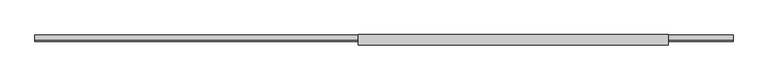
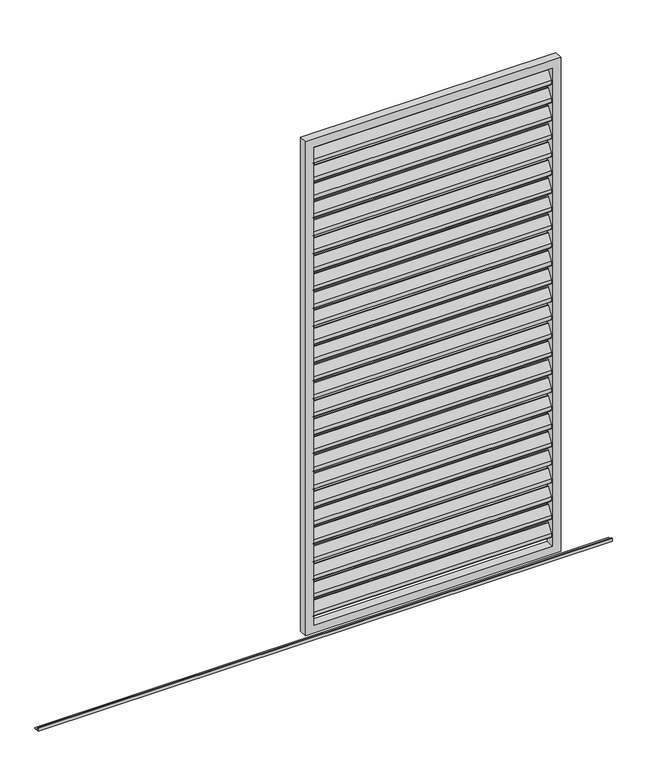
"""IFC4 building model written with IfcOpenShell, lengths in millimetres: proxy geometry, Renson_Amani_Loggia_Paro_Aluminium_Sliding : Renson_Amani_Loggia_Paro_Aluminium_Sliding."""

from ifc_helpers import new_model, si_unit, point, frame, frame_2d, origin, place, context, project, spatial, polyline, circle_curve, trimmed, segment, composite_curve, outline, extrude, source, transform, mapped, element, save


def generic_models_13bb7243(model_context):
    return source(origin(), model_context, "Body", "SweptSolid", [
        extrude(outline(composite_curve([segment(trimmed(circle_curve(frame_2d((12.6675921, 2432.6587719)), 3.0), [point((10.1515804, 2434.292689))], [point((15.6675921, 2432.6587719))], False, "CARTESIAN"), True, "CONTINUOUS"), segment(polyline([(15.6675921, 2432.6587719), (15.6675921, 2414.2979873)]), True, "CONTINUOUS"), segment(trimmed(circle_curve(frame_2d((12.6675921, 2414.2979873)), 3.0), [point((15.6675921, 2414.2979873))], [point((15.1836038, 2412.6640702))], False, "CARTESIAN"), True, "CONTINUOUS"), segment(polyline([(15.1836038, 2412.6640702), (-8.8163962, 2375.707311)]), True, "CONTINUOUS"), segment(trimmed(circle_curve(frame_2d((-11.3324079, 2377.3412281)), 3.0), [point((-8.8163962, 2375.707311))], [point((-14.3324079, 2377.3412281))], False, "CARTESIAN"), True, "CONTINUOUS"), segment(polyline([(-14.3324079, 2377.3412281), (-14.3324079, 2396.5906532), (10.1515804, 2434.292689)]), True, "CONTINUOUS")], self_intersect=False)), frame((-560.0, 0.0, 0.0), z_axis=(1.0, 0.0, 0.0), x_axis=(0.0, 1.0, 0.0)), (0.0, 0.0, 1.0), 1120.0),
        extrude(outline(composite_curve([segment(trimmed(circle_curve(frame_2d((12.6675921, 2342.6587719)), 3.0), [point((10.1515804, 2344.292689))], [point((15.6675921, 2342.6587719))], False, "CARTESIAN"), True, "CONTINUOUS"), segment(polyline([(15.6675921, 2342.6587719), (15.6675921, 2324.2979873)]), True, "CONTINUOUS"), segment(trimmed(circle_curve(frame_2d((12.6675921, 2324.2979873)), 3.0), [point((15.6675921, 2324.2979873))], [point((15.1836038, 2322.6640702))], False, "CARTESIAN"), True, "CONTINUOUS"), segment(polyline([(15.1836038, 2322.6640702), (-8.8163962, 2285.707311)]), True, "CONTINUOUS"), segment(trimmed(circle_curve(frame_2d((-11.3324079, 2287.3412281)), 3.0), [point((-8.8163962, 2285.707311))], [point((-14.3324079, 2287.3412281))], False, "CARTESIAN"), True, "CONTINUOUS"), segment(polyline([(-14.3324079, 2287.3412281), (-14.3324079, 2306.5906532), (10.1515804, 2344.292689)]), True, "CONTINUOUS")], self_intersect=False)), frame((-560.0, 0.0, 0.0), z_axis=(1.0, 0.0, 0.0), x_axis=(0.0, 1.0, 0.0)), (0.0, 0.0, 1.0), 1120.0),
        extrude(outline(composite_curve([segment(trimmed(circle_curve(frame_2d((12.6675921, 2252.6587719)), 3.0), [point((10.1515804, 2254.292689))], [point((15.6675921, 2252.6587719))], False, "CARTESIAN"), True, "CONTINUOUS"), segment(polyline([(15.6675921, 2252.6587719), (15.6675921, 2234.2979873)]), True, "CONTINUOUS"), segment(trimmed(circle_curve(frame_2d((12.6675921, 2234.2979873)), 3.0), [point((15.6675921, 2234.2979873))], [point((15.1836038, 2232.6640702))], False, "CARTESIAN"), True, "CONTINUOUS"), segment(polyline([(15.1836038, 2232.6640702), (-8.8163962, 2195.707311)]), True, "CONTINUOUS"), segment(trimmed(circle_curve(frame_2d((-11.3324079, 2197.3412281)), 3.0), [point((-8.8163962, 2195.707311))], [point((-14.3324079, 2197.3412281))], False, "CARTESIAN"), True, "CONTINUOUS"), segment(polyline([(-14.3324079, 2197.3412281), (-14.3324079, 2216.5906532), (10.1515804, 2254.292689)]), True, "CONTINUOUS")], self_intersect=False)), frame((-560.0, 0.0, 0.0), z_axis=(1.0, 0.0, 0.0), x_axis=(0.0, 1.0, 0.0)), (0.0, 0.0, 1.0), 1120.0),
        extrude(outline(composite_curve([segment(trimmed(circle_curve(frame_2d((12.6675921, 2162.6587719)), 3.0), [point((10.1515804, 2164.292689))], [point((15.6675921, 2162.6587719))], False, "CARTESIAN"), True, "CONTINUOUS"), segment(polyline([(15.6675921, 2162.6587719), (15.6675921, 2144.2979873)]), True, "CONTINUOUS"), segment(trimmed(circle_curve(frame_2d((12.6675921, 2144.2979873)), 3.0), [point((15.6675921, 2144.2979873))], [point((15.1836038, 2142.6640702))], False, "CARTESIAN"), True, "CONTINUOUS"), segment(polyline([(15.1836038, 2142.6640702), (-8.8163962, 2105.707311)]), True, "CONTINUOUS"), segment(trimmed(circle_curve(frame_2d((-11.3324079, 2107.3412281)), 3.0), [point((-8.8163962, 2105.707311))], [point((-14.3324079, 2107.3412281))], False, "CARTESIAN"), True, "CONTINUOUS"), segment(polyline([(-14.3324079, 2107.3412281), (-14.3324079, 2126.5906532), (10.1515804, 2164.292689)]), True, "CONTINUOUS")], self_intersect=False)), frame((-560.0, 0.0, 0.0), z_axis=(1.0, 0.0, 0.0), x_axis=(0.0, 1.0, 0.0)), (0.0, 0.0, 1.0), 1120.0),
        extrude(outline(composite_curve([segment(trimmed(circle_curve(frame_2d((12.6675921, 2072.6587719)), 3.0), [point((10.1515804, 2074.292689))], [point((15.6675921, 2072.6587719))], False, "CARTESIAN"), True, "CONTINUOUS"), segment(polyline([(15.6675921, 2072.6587719), (15.6675921, 2054.2979873)]), True, "CONTINUOUS"), segment(trimmed(circle_curve(frame_2d((12.6675921, 2054.2979873)), 3.0), [point((15.6675921, 2054.2979873))], [point((15.1836038, 2052.6640702))], False, "CARTESIAN"), True, "CONTINUOUS"), segment(polyline([(15.1836038, 2052.6640702), (-8.8163962, 2015.707311)]), True, "CONTINUOUS"), segment(trimmed(circle_curve(frame_2d((-11.3324079, 2017.3412281)), 3.0), [point((-8.8163962, 2015.707311))], [point((-14.3324079, 2017.3412281))], False, "CARTESIAN"), True, "CONTINUOUS"), segment(polyline([(-14.3324079, 2017.3412281), (-14.3324079, 2036.5906532), (10.1515804, 2074.292689)]), True, "CONTINUOUS")], self_intersect=False)), frame((-560.0, 0.0, 0.0), z_axis=(1.0, 0.0, 0.0), x_axis=(0.0, 1.0, 0.0)), (0.0, 0.0, 1.0), 1120.0),
        extrude(outline(composite_curve([segment(trimmed(circle_curve(frame_2d((12.6675921, 1982.6587719)), 3.0), [point((10.1515804, 1984.292689))], [point((15.6675921, 1982.6587719))], False, "CARTESIAN"), True, "CONTINUOUS"), segment(polyline([(15.6675921, 1982.6587719), (15.6675921, 1964.2979873)]), True, "CONTINUOUS"), segment(trimmed(circle_curve(frame_2d((12.6675921, 1964.2979873)), 3.0), [point((15.6675921, 1964.2979873))], [point((15.1836038, 1962.6640702))], False, "CARTESIAN"), True, "CONTINUOUS"), segment(polyline([(15.1836038, 1962.6640702), (-8.8163962, 1925.707311)]), True, "CONTINUOUS"), segment(trimmed(circle_curve(frame_2d((-11.3324079, 1927.3412281)), 3.0), [point((-8.8163962, 1925.707311))], [point((-14.3324079, 1927.3412281))], False, "CARTESIAN"), True, "CONTINUOUS"), segment(polyline([(-14.3324079, 1927.3412281), (-14.3324079, 1946.5906532), (10.1515804, 1984.292689)]), True, "CONTINUOUS")], self_intersect=False)), frame((-560.0, 0.0, 0.0), z_axis=(1.0, 0.0, 0.0), x_axis=(0.0, 1.0, 0.0)), (0.0, 0.0, 1.0), 1120.0),
        extrude(outline(composite_curve([segment(trimmed(circle_curve(frame_2d((12.6675921, 1892.6587719)), 3.0), [point((10.1515804, 1894.292689))], [point((15.6675921, 1892.6587719))], False, "CARTESIAN"), True, "CONTINUOUS"), segment(polyline([(15.6675921, 1892.6587719), (15.6675921, 1874.2979873)]), True, "CONTINUOUS"), segment(trimmed(circle_curve(frame_2d((12.6675921, 1874.2979873)), 3.0), [point((15.6675921, 1874.2979873))], [point((15.1836038, 1872.6640702))], False, "CARTESIAN"), True, "CONTINUOUS"), segment(polyline([(15.1836038, 1872.6640702), (-8.8163962, 1835.707311)]), True, "CONTINUOUS"), segment(trimmed(circle_curve(frame_2d((-11.3324079, 1837.3412281)), 3.0), [point((-8.8163962, 1835.707311))], [point((-14.3324079, 1837.3412281))], False, "CARTESIAN"), True, "CONTINUOUS"), segment(polyline([(-14.3324079, 1837.3412281), (-14.3324079, 1856.5906532), (10.1515804, 1894.292689)]), True, "CONTINUOUS")], self_intersect=False)), frame((-560.0, 0.0, 0.0), z_axis=(1.0, 0.0, 0.0), x_axis=(0.0, 1.0, 0.0)), (0.0, 0.0, 1.0), 1120.0),
        extrude(outline(composite_curve([segment(trimmed(circle_curve(frame_2d((12.6675921, 1802.6587719)), 3.0), [point((10.1515804, 1804.292689))], [point((15.6675921, 1802.6587719))], False, "CARTESIAN"), True, "CONTINUOUS"), segment(polyline([(15.6675921, 1802.6587719), (15.6675921, 1784.2979873)]), True, "CONTINUOUS"), segment(trimmed(circle_curve(frame_2d((12.6675921, 1784.2979873)), 3.0), [point((15.6675921, 1784.2979873))], [point((15.1836038, 1782.6640702))], False, "CARTESIAN"), True, "CONTINUOUS"), segment(polyline([(15.1836038, 1782.6640702), (-8.8163962, 1745.707311)]), True, "CONTINUOUS"), segment(trimmed(circle_curve(frame_2d((-11.3324079, 1747.3412281)), 3.0), [point((-8.8163962, 1745.707311))], [point((-14.3324079, 1747.3412281))], False, "CARTESIAN"), True, "CONTINUOUS"), segment(polyline([(-14.3324079, 1747.3412281), (-14.3324079, 1766.5906532), (10.1515804, 1804.292689)]), True, "CONTINUOUS")], self_intersect=False)), frame((-560.0, 0.0, 0.0), z_axis=(1.0, 0.0, 0.0), x_axis=(0.0, 1.0, 0.0)), (0.0, 0.0, 1.0), 1120.0),
        extrude(outline(composite_curve([segment(trimmed(circle_curve(frame_2d((12.6675921, 1712.6587719)), 3.0), [point((10.1515804, 1714.292689))], [point((15.6675921, 1712.6587719))], False, "CARTESIAN"), True, "CONTINUOUS"), segment(polyline([(15.6675921, 1712.6587719), (15.6675921, 1694.2979873)]), True, "CONTINUOUS"), segment(trimmed(circle_curve(frame_2d((12.6675921, 1694.2979873)), 3.0), [point((15.6675921, 1694.2979873))], [point((15.1836038, 1692.6640702))], False, "CARTESIAN"), True, "CONTINUOUS"), segment(polyline([(15.1836038, 1692.6640702), (-8.8163962, 1655.707311)]), True, "CONTINUOUS"), segment(trimmed(circle_curve(frame_2d((-11.3324079, 1657.3412281)), 3.0), [point((-8.8163962, 1655.707311))], [point((-14.3324079, 1657.3412281))], False, "CARTESIAN"), True, "CONTINUOUS"), segment(polyline([(-14.3324079, 1657.3412281), (-14.3324079, 1676.5906532), (10.1515804, 1714.292689)]), True, "CONTINUOUS")], self_intersect=False)), frame((-560.0, 0.0, 0.0), z_axis=(1.0, 0.0, 0.0), x_axis=(0.0, 1.0, 0.0)), (0.0, 0.0, 1.0), 1120.0),
        extrude(outline(composite_curve([segment(trimmed(circle_curve(frame_2d((12.6675921, 1622.6587719)), 3.0), [point((10.1515804, 1624.292689))], [point((15.6675921, 1622.6587719))], False, "CARTESIAN"), True, "CONTINUOUS"), segment(polyline([(15.6675921, 1622.6587719), (15.6675921, 1604.2979873)]), True, "CONTINUOUS"), segment(trimmed(circle_curve(frame_2d((12.6675921, 1604.2979873)), 3.0), [point((15.6675921, 1604.2979873))], [point((15.1836038, 1602.6640702))], False, "CARTESIAN"), True, "CONTINUOUS"), segment(polyline([(15.1836038, 1602.6640702), (-8.8163962, 1565.707311)]), True, "CONTINUOUS"), segment(trimmed(circle_curve(frame_2d((-11.3324079, 1567.3412281)), 3.0), [point((-8.8163962, 1565.707311))], [point((-14.3324079, 1567.3412281))], False, "CARTESIAN"), True, "CONTINUOUS"), segment(polyline([(-14.3324079, 1567.3412281), (-14.3324079, 1586.5906532), (10.1515804, 1624.292689)]), True, "CONTINUOUS")], self_intersect=False)), frame((-560.0, 0.0, 0.0), z_axis=(1.0, 0.0, 0.0), x_axis=(0.0, 1.0, 0.0)), (0.0, 0.0, 1.0), 1120.0),
        extrude(outline(composite_curve([segment(trimmed(circle_curve(frame_2d((12.6675921, 1532.6587719)), 3.0), [point((10.1515804, 1534.292689))], [point((15.6675921, 1532.6587719))], False, "CARTESIAN"), True, "CONTINUOUS"), segment(polyline([(15.6675921, 1532.6587719), (15.6675921, 1514.2979873)]), True, "CONTINUOUS"), segment(trimmed(circle_curve(frame_2d((12.6675921, 1514.2979873)), 3.0), [point((15.6675921, 1514.2979873))], [point((15.1836038, 1512.6640702))], False, "CARTESIAN"), True, "CONTINUOUS"), segment(polyline([(15.1836038, 1512.6640702), (-8.8163962, 1475.707311)]), True, "CONTINUOUS"), segment(trimmed(circle_curve(frame_2d((-11.3324079, 1477.3412281)), 3.0), [point((-8.8163962, 1475.707311))], [point((-14.3324079, 1477.3412281))], False, "CARTESIAN"), True, "CONTINUOUS"), segment(polyline([(-14.3324079, 1477.3412281), (-14.3324079, 1496.5906532), (10.1515804, 1534.292689)]), True, "CONTINUOUS")], self_intersect=False)), frame((-560.0, 0.0, 0.0), z_axis=(1.0, 0.0, 0.0), x_axis=(0.0, 1.0, 0.0)), (0.0, 0.0, 1.0), 1120.0),
        extrude(outline(composite_curve([segment(trimmed(circle_curve(frame_2d((12.6675921, 1442.6587719)), 3.0), [point((10.1515804, 1444.292689))], [point((15.6675921, 1442.6587719))], False, "CARTESIAN"), True, "CONTINUOUS"), segment(polyline([(15.6675921, 1442.6587719), (15.6675921, 1424.2979873)]), True, "CONTINUOUS"), segment(trimmed(circle_curve(frame_2d((12.6675921, 1424.2979873)), 3.0), [point((15.6675921, 1424.2979873))], [point((15.1836038, 1422.6640702))], False, "CARTESIAN"), True, "CONTINUOUS"), segment(polyline([(15.1836038, 1422.6640702), (-8.8163962, 1385.707311)]), True, "CONTINUOUS"), segment(trimmed(circle_curve(frame_2d((-11.3324079, 1387.3412281)), 3.0), [point((-8.8163962, 1385.707311))], [point((-14.3324079, 1387.3412281))], False, "CARTESIAN"), True, "CONTINUOUS"), segment(polyline([(-14.3324079, 1387.3412281), (-14.3324079, 1406.5906532), (10.1515804, 1444.292689)]), True, "CONTINUOUS")], self_intersect=False)), frame((-560.0, 0.0, 0.0), z_axis=(1.0, 0.0, 0.0), x_axis=(0.0, 1.0, 0.0)), (0.0, 0.0, 1.0), 1120.0),
        extrude(outline(composite_curve([segment(trimmed(circle_curve(frame_2d((12.6675921, 1352.6587719)), 3.0), [point((10.1515804, 1354.292689))], [point((15.6675921, 1352.6587719))], False, "CARTESIAN"), True, "CONTINUOUS"), segment(polyline([(15.6675921, 1352.6587719), (15.6675921, 1334.2979873)]), True, "CONTINUOUS"), segment(trimmed(circle_curve(frame_2d((12.6675921, 1334.2979873)), 3.0), [point((15.6675921, 1334.2979873))], [point((15.1836038, 1332.6640702))], False, "CARTESIAN"), True, "CONTINUOUS"), segment(polyline([(15.1836038, 1332.6640702), (-8.8163962, 1295.707311)]), True, "CONTINUOUS"), segment(trimmed(circle_curve(frame_2d((-11.3324079, 1297.3412281)), 3.0), [point((-8.8163962, 1295.707311))], [point((-14.3324079, 1297.3412281))], False, "CARTESIAN"), True, "CONTINUOUS"), segment(polyline([(-14.3324079, 1297.3412281), (-14.3324079, 1316.5906532), (10.1515804, 1354.292689)]), True, "CONTINUOUS")], self_intersect=False)), frame((-560.0, 0.0, 0.0), z_axis=(1.0, 0.0, 0.0), x_axis=(0.0, 1.0, 0.0)), (0.0, 0.0, 1.0), 1120.0),
        extrude(outline(composite_curve([segment(trimmed(circle_curve(frame_2d((12.6675921, 1262.6587719)), 3.0), [point((10.1515804, 1264.292689))], [point((15.6675921, 1262.6587719))], False, "CARTESIAN"), True, "CONTINUOUS"), segment(polyline([(15.6675921, 1262.6587719), (15.6675921, 1244.2979873)]), True, "CONTINUOUS"), segment(trimmed(circle_curve(frame_2d((12.6675921, 1244.2979873)), 3.0), [point((15.6675921, 1244.2979873))], [point((15.1836038, 1242.6640702))], False, "CARTESIAN"), True, "CONTINUOUS"), segment(polyline([(15.1836038, 1242.6640702), (-8.8163962, 1205.707311)]), True, "CONTINUOUS"), segment(trimmed(circle_curve(frame_2d((-11.3324079, 1207.3412281)), 3.0), [point((-8.8163962, 1205.707311))], [point((-14.3324079, 1207.3412281))], False, "CARTESIAN"), True, "CONTINUOUS"), segment(polyline([(-14.3324079, 1207.3412281), (-14.3324079, 1226.5906532), (10.1515804, 1264.292689)]), True, "CONTINUOUS")], self_intersect=False)), frame((-560.0, 0.0, 0.0), z_axis=(1.0, 0.0, 0.0), x_axis=(0.0, 1.0, 0.0)), (0.0, 0.0, 1.0), 1120.0),
        extrude(outline(composite_curve([segment(trimmed(circle_curve(frame_2d((12.6675921, 1172.6587719)), 3.0), [point((10.1515804, 1174.292689))], [point((15.6675921, 1172.6587719))], False, "CARTESIAN"), True, "CONTINUOUS"), segment(polyline([(15.6675921, 1172.6587719), (15.6675921, 1154.2979873)]), True, "CONTINUOUS"), segment(trimmed(circle_curve(frame_2d((12.6675921, 1154.2979873)), 3.0), [point((15.6675921, 1154.2979873))], [point((15.1836038, 1152.6640702))], False, "CARTESIAN"), True, "CONTINUOUS"), segment(polyline([(15.1836038, 1152.6640702), (-8.8163962, 1115.707311)]), True, "CONTINUOUS"), segment(trimmed(circle_curve(frame_2d((-11.3324079, 1117.3412281)), 3.0), [point((-8.8163962, 1115.707311))], [point((-14.3324079, 1117.3412281))], False, "CARTESIAN"), True, "CONTINUOUS"), segment(polyline([(-14.3324079, 1117.3412281), (-14.3324079, 1136.5906532), (10.1515804, 1174.292689)]), True, "CONTINUOUS")], self_intersect=False)), frame((-560.0, 0.0, 0.0), z_axis=(1.0, 0.0, 0.0), x_axis=(0.0, 1.0, 0.0)), (0.0, 0.0, 1.0), 1120.0),
        extrude(outline(composite_curve([segment(trimmed(circle_curve(frame_2d((12.6675921, 1082.6587719)), 3.0), [point((10.1515804, 1084.292689))], [point((15.6675921, 1082.6587719))], False, "CARTESIAN"), True, "CONTINUOUS"), segment(polyline([(15.6675921, 1082.6587719), (15.6675921, 1064.2979873)]), True, "CONTINUOUS"), segment(trimmed(circle_curve(frame_2d((12.6675921, 1064.2979873)), 3.0), [point((15.6675921, 1064.2979873))], [point((15.1836038, 1062.6640702))], False, "CARTESIAN"), True, "CONTINUOUS"), segment(polyline([(15.1836038, 1062.6640702), (-8.8163962, 1025.707311)]), True, "CONTINUOUS"), segment(trimmed(circle_curve(frame_2d((-11.3324079, 1027.3412281)), 3.0), [point((-8.8163962, 1025.707311))], [point((-14.3324079, 1027.3412281))], False, "CARTESIAN"), True, "CONTINUOUS"), segment(polyline([(-14.3324079, 1027.3412281), (-14.3324079, 1046.5906532), (10.1515804, 1084.292689)]), True, "CONTINUOUS")], self_intersect=False)), frame((-560.0, 0.0, 0.0), z_axis=(1.0, 0.0, 0.0), x_axis=(0.0, 1.0, 0.0)), (0.0, 0.0, 1.0), 1120.0),
        extrude(outline(composite_curve([segment(trimmed(circle_curve(frame_2d((12.6675921, 992.6587719)), 3.0), [point((10.1515804, 994.292689))], [point((15.6675921, 992.6587719))], False, "CARTESIAN"), True, "CONTINUOUS"), segment(polyline([(15.6675921, 992.6587719), (15.6675921, 974.2979873)]), True, "CONTINUOUS"), segment(trimmed(circle_curve(frame_2d((12.6675921, 974.2979873)), 3.0), [point((15.6675921, 974.2979873))], [point((15.1836038, 972.6640702))], False, "CARTESIAN"), True, "CONTINUOUS"), segment(polyline([(15.1836038, 972.6640702), (-8.8163962, 935.707311)]), True, "CONTINUOUS"), segment(trimmed(circle_curve(frame_2d((-11.3324079, 937.3412281)), 3.0), [point((-8.8163962, 935.707311))], [point((-14.3324079, 937.3412281))], False, "CARTESIAN"), True, "CONTINUOUS"), segment(polyline([(-14.3324079, 937.3412281), (-14.3324079, 956.5906532), (10.1515804, 994.292689)]), True, "CONTINUOUS")], self_intersect=False)), frame((-560.0, 0.0, 0.0), z_axis=(1.0, 0.0, 0.0), x_axis=(0.0, 1.0, 0.0)), (0.0, 0.0, 1.0), 1120.0),
        extrude(outline(composite_curve([segment(trimmed(circle_curve(frame_2d((12.6675921, 902.6587719)), 3.0), [point((10.1515804, 904.292689))], [point((15.6675921, 902.6587719))], False, "CARTESIAN"), True, "CONTINUOUS"), segment(polyline([(15.6675921, 902.6587719), (15.6675921, 884.2979873)]), True, "CONTINUOUS"), segment(trimmed(circle_curve(frame_2d((12.6675921, 884.2979873)), 3.0), [point((15.6675921, 884.2979873))], [point((15.1836038, 882.6640702))], False, "CARTESIAN"), True, "CONTINUOUS"), segment(polyline([(15.1836038, 882.6640702), (-8.8163962, 845.707311)]), True, "CONTINUOUS"), segment(trimmed(circle_curve(frame_2d((-11.3324079, 847.3412281)), 3.0), [point((-8.8163962, 845.707311))], [point((-14.3324079, 847.3412281))], False, "CARTESIAN"), True, "CONTINUOUS"), segment(polyline([(-14.3324079, 847.3412281), (-14.3324079, 866.5906532), (10.1515804, 904.292689)]), True, "CONTINUOUS")], self_intersect=False)), frame((-560.0, 0.0, 0.0), z_axis=(1.0, 0.0, 0.0), x_axis=(0.0, 1.0, 0.0)), (0.0, 0.0, 1.0), 1120.0),
        extrude(outline(composite_curve([segment(trimmed(circle_curve(frame_2d((12.6675921, 812.6587719)), 3.0), [point((10.1515804, 814.292689))], [point((15.6675921, 812.6587719))], False, "CARTESIAN"), True, "CONTINUOUS"), segment(polyline([(15.6675921, 812.6587719), (15.6675921, 794.2979873)]), True, "CONTINUOUS"), segment(trimmed(circle_curve(frame_2d((12.6675921, 794.2979873)), 3.0), [point((15.6675921, 794.2979873))], [point((15.1836038, 792.6640702))], False, "CARTESIAN"), True, "CONTINUOUS"), segment(polyline([(15.1836038, 792.6640702), (-8.8163962, 755.707311)]), True, "CONTINUOUS"), segment(trimmed(circle_curve(frame_2d((-11.3324079, 757.3412281)), 3.0), [point((-8.8163962, 755.707311))], [point((-14.3324079, 757.3412281))], False, "CARTESIAN"), True, "CONTINUOUS"), segment(polyline([(-14.3324079, 757.3412281), (-14.3324079, 776.5906532), (10.1515804, 814.292689)]), True, "CONTINUOUS")], self_intersect=False)), frame((-560.0, 0.0, 0.0), z_axis=(1.0, 0.0, 0.0), x_axis=(0.0, 1.0, 0.0)), (0.0, 0.0, 1.0), 1120.0),
        extrude(outline(composite_curve([segment(trimmed(circle_curve(frame_2d((12.6675921, 722.6587719)), 3.0), [point((10.1515804, 724.292689))], [point((15.6675921, 722.6587719))], False, "CARTESIAN"), True, "CONTINUOUS"), segment(polyline([(15.6675921, 722.6587719), (15.6675921, 704.2979873)]), True, "CONTINUOUS"), segment(trimmed(circle_curve(frame_2d((12.6675921, 704.2979873)), 3.0), [point((15.6675921, 704.2979873))], [point((15.1836038, 702.6640702))], False, "CARTESIAN"), True, "CONTINUOUS"), segment(polyline([(15.1836038, 702.6640702), (-8.8163962, 665.707311)]), True, "CONTINUOUS"), segment(trimmed(circle_curve(frame_2d((-11.3324079, 667.3412281)), 3.0), [point((-8.8163962, 665.707311))], [point((-14.3324079, 667.3412281))], False, "CARTESIAN"), True, "CONTINUOUS"), segment(polyline([(-14.3324079, 667.3412281), (-14.3324079, 686.5906532), (10.1515804, 724.292689)]), True, "CONTINUOUS")], self_intersect=False)), frame((-560.0, 0.0, 0.0), z_axis=(1.0, 0.0, 0.0), x_axis=(0.0, 1.0, 0.0)), (0.0, 0.0, 1.0), 1120.0),
        extrude(outline(composite_curve([segment(trimmed(circle_curve(frame_2d((12.6675921, 632.6587719)), 3.0), [point((10.1515804, 634.292689))], [point((15.6675921, 632.6587719))], False, "CARTESIAN"), True, "CONTINUOUS"), segment(polyline([(15.6675921, 632.6587719), (15.6675921, 614.2979873)]), True, "CONTINUOUS"), segment(trimmed(circle_curve(frame_2d((12.6675921, 614.2979873)), 3.0), [point((15.6675921, 614.2979873))], [point((15.1836038, 612.6640702))], False, "CARTESIAN"), True, "CONTINUOUS"), segment(polyline([(15.1836038, 612.6640702), (-8.8163962, 575.707311)]), True, "CONTINUOUS"), segment(trimmed(circle_curve(frame_2d((-11.3324079, 577.3412281)), 3.0), [point((-8.8163962, 575.707311))], [point((-14.3324079, 577.3412281))], False, "CARTESIAN"), True, "CONTINUOUS"), segment(polyline([(-14.3324079, 577.3412281), (-14.3324079, 596.5906532), (10.1515804, 634.292689)]), True, "CONTINUOUS")], self_intersect=False)), frame((-560.0, 0.0, 0.0), z_axis=(1.0, 0.0, 0.0), x_axis=(0.0, 1.0, 0.0)), (0.0, 0.0, 1.0), 1120.0),
        extrude(outline(composite_curve([segment(trimmed(circle_curve(frame_2d((12.6675921, 542.6587719)), 3.0), [point((10.1515804, 544.292689))], [point((15.6675921, 542.6587719))], False, "CARTESIAN"), True, "CONTINUOUS"), segment(polyline([(15.6675921, 542.6587719), (15.6675921, 524.2979873)]), True, "CONTINUOUS"), segment(trimmed(circle_curve(frame_2d((12.6675921, 524.2979873)), 3.0), [point((15.6675921, 524.2979873))], [point((15.1836038, 522.6640702))], False, "CARTESIAN"), True, "CONTINUOUS"), segment(polyline([(15.1836038, 522.6640702), (-8.8163962, 485.707311)]), True, "CONTINUOUS"), segment(trimmed(circle_curve(frame_2d((-11.3324079, 487.3412281)), 3.0), [point((-8.8163962, 485.707311))], [point((-14.3324079, 487.3412281))], False, "CARTESIAN"), True, "CONTINUOUS"), segment(polyline([(-14.3324079, 487.3412281), (-14.3324079, 506.5906532), (10.1515804, 544.292689)]), True, "CONTINUOUS")], self_intersect=False)), frame((-560.0, 0.0, 0.0), z_axis=(1.0, 0.0, 0.0), x_axis=(0.0, 1.0, 0.0)), (0.0, 0.0, 1.0), 1120.0),
        extrude(outline(composite_curve([segment(trimmed(circle_curve(frame_2d((12.6675921, 452.6587719)), 3.0), [point((10.1515804, 454.292689))], [point((15.6675921, 452.6587719))], False, "CARTESIAN"), True, "CONTINUOUS"), segment(polyline([(15.6675921, 452.6587719), (15.6675921, 434.2979873)]), True, "CONTINUOUS"), segment(trimmed(circle_curve(frame_2d((12.6675921, 434.2979873)), 3.0), [point((15.6675921, 434.2979873))], [point((15.1836038, 432.6640702))], False, "CARTESIAN"), True, "CONTINUOUS"), segment(polyline([(15.1836038, 432.6640702), (-8.8163962, 395.707311)]), True, "CONTINUOUS"), segment(trimmed(circle_curve(frame_2d((-11.3324079, 397.3412281)), 3.0), [point((-8.8163962, 395.707311))], [point((-14.3324079, 397.3412281))], False, "CARTESIAN"), True, "CONTINUOUS"), segment(polyline([(-14.3324079, 397.3412281), (-14.3324079, 416.5906532), (10.1515804, 454.292689)]), True, "CONTINUOUS")], self_intersect=False)), frame((-560.0, 0.0, 0.0), z_axis=(1.0, 0.0, 0.0), x_axis=(0.0, 1.0, 0.0)), (0.0, 0.0, 1.0), 1120.0),
        extrude(outline(composite_curve([segment(trimmed(circle_curve(frame_2d((12.6675921, 362.6587719)), 3.0), [point((10.1515804, 364.292689))], [point((15.6675921, 362.6587719))], False, "CARTESIAN"), True, "CONTINUOUS"), segment(polyline([(15.6675921, 362.6587719), (15.6675921, 344.2979873)]), True, "CONTINUOUS"), segment(trimmed(circle_curve(frame_2d((12.6675921, 344.2979873)), 3.0), [point((15.6675921, 344.2979873))], [point((15.1836038, 342.6640702))], False, "CARTESIAN"), True, "CONTINUOUS"), segment(polyline([(15.1836038, 342.6640702), (-8.8163962, 305.707311)]), True, "CONTINUOUS"), segment(trimmed(circle_curve(frame_2d((-11.3324079, 307.3412281)), 3.0), [point((-8.8163962, 305.707311))], [point((-14.3324079, 307.3412281))], False, "CARTESIAN"), True, "CONTINUOUS"), segment(polyline([(-14.3324079, 307.3412281), (-14.3324079, 326.5906532), (10.1515804, 364.292689)]), True, "CONTINUOUS")], self_intersect=False)), frame((-560.0, 0.0, 0.0), z_axis=(1.0, 0.0, 0.0), x_axis=(0.0, 1.0, 0.0)), (0.0, 0.0, 1.0), 1120.0),
        extrude(outline(composite_curve([segment(trimmed(circle_curve(frame_2d((12.6675921, 272.6587719)), 3.0), [point((10.1515804, 274.292689))], [point((15.6675921, 272.6587719))], False, "CARTESIAN"), True, "CONTINUOUS"), segment(polyline([(15.6675921, 272.6587719), (15.6675921, 254.2979873)]), True, "CONTINUOUS"), segment(trimmed(circle_curve(frame_2d((12.6675921, 254.2979873)), 3.0), [point((15.6675921, 254.2979873))], [point((15.1836038, 252.6640702))], False, "CARTESIAN"), True, "CONTINUOUS"), segment(polyline([(15.1836038, 252.6640702), (-8.8163962, 215.707311)]), True, "CONTINUOUS"), segment(trimmed(circle_curve(frame_2d((-11.3324079, 217.3412281)), 3.0), [point((-8.8163962, 215.707311))], [point((-14.3324079, 217.3412281))], False, "CARTESIAN"), True, "CONTINUOUS"), segment(polyline([(-14.3324079, 217.3412281), (-14.3324079, 236.5906532), (10.1515804, 274.292689)]), True, "CONTINUOUS")], self_intersect=False)), frame((-560.0, 0.0, 0.0), z_axis=(1.0, 0.0, 0.0), x_axis=(0.0, 1.0, 0.0)), (0.0, 0.0, 1.0), 1120.0),
        extrude(outline(composite_curve([segment(trimmed(circle_curve(frame_2d((12.6675921, 182.6587719)), 3.0), [point((10.1515804, 184.292689))], [point((15.6675921, 182.6587719))], False, "CARTESIAN"), True, "CONTINUOUS"), segment(polyline([(15.6675921, 182.6587719), (15.6675921, 164.2979873)]), True, "CONTINUOUS"), segment(trimmed(circle_curve(frame_2d((12.6675921, 164.2979873)), 3.0), [point((15.6675921, 164.2979873))], [point((15.1836038, 162.6640702))], False, "CARTESIAN"), True, "CONTINUOUS"), segment(polyline([(15.1836038, 162.6640702), (-8.8163962, 125.707311)]), True, "CONTINUOUS"), segment(trimmed(circle_curve(frame_2d((-11.3324079, 127.3412281)), 3.0), [point((-8.8163962, 125.707311))], [point((-14.3324079, 127.3412281))], False, "CARTESIAN"), True, "CONTINUOUS"), segment(polyline([(-14.3324079, 127.3412281), (-14.3324079, 146.5906532), (10.1515804, 184.292689)]), True, "CONTINUOUS")], self_intersect=False)), frame((-560.0, 0.0, 0.0), z_axis=(1.0, 0.0, 0.0), x_axis=(0.0, 1.0, 0.0)), (0.0, 0.0, 1.0), 1120.0),
        extrude(outline(polyline([(-6.0, 15.0), (-3.0, 15.0), (-3.0, 3.0), (20.0, 3.0), (20.0, 0.0), (-6.0, 0.0), (-6.0, 15.0)])), frame((-1850.0, 0.0, 0.0), z_axis=(1.0, 0.0, 0.0), x_axis=(0.0, 1.0, 0.0)), (0.0, 0.0, 1.0), 2700.0),
        extrude(outline(polyline([(2500.0, -600.0), (45.0, -600.0), (45.0, 600.0), (2500.0, 600.0), (2500.0, -600.0)]), holes=[polyline([(2460.0, 560.0), (85.0, 560.0), (85.0, -560.0), (2460.0, -560.0), (2460.0, 560.0)])]), frame((0.0, -20.0, 0.0), z_axis=(0.0, 1.0, 0.0), x_axis=(0.0, 0.0, 1.0)), (0.0, 0.0, 1.0), 40.0),
    ])


if __name__ == "__main__":
    model = new_model("IFC4")
    model_context = context("Model", 3, world=origin())
    ifc_project = project(units=[si_unit("LENGTHUNIT", "METRE", prefix="MILLI")], contexts=[model_context])
    site = spatial("IfcSite", under=ifc_project)
    building = spatial("IfcBuilding", under=site)
    placement = place(None, origin())
    generic_models_shape = generic_models_13bb7243(model_context)
    element("IfcBuildingElementProxy", 1, Name="Renson_Amani_Loggia_Paro_Aluminium_Sliding : Renson_Amani_Loggia_Paro_Aluminium_Sliding", ObjectType="Renson_Amani_Loggia_Paro_Aluminium_Sliding : Renson_Amani_Loggia_Paro_Aluminium_Sliding", at=placement, inside=building, context=model_context, shape_type="MappedRepresentation", body=[
        mapped(generic_models_shape, transform((0.0, 0.0, 0.0), x_axis=(1.0, 0.0, 0.0), y_axis=(0.0, 1.0, 0.0), z_axis=(0.0, 0.0, 1.0))),
    ])
    save(model, "model.ifc")
